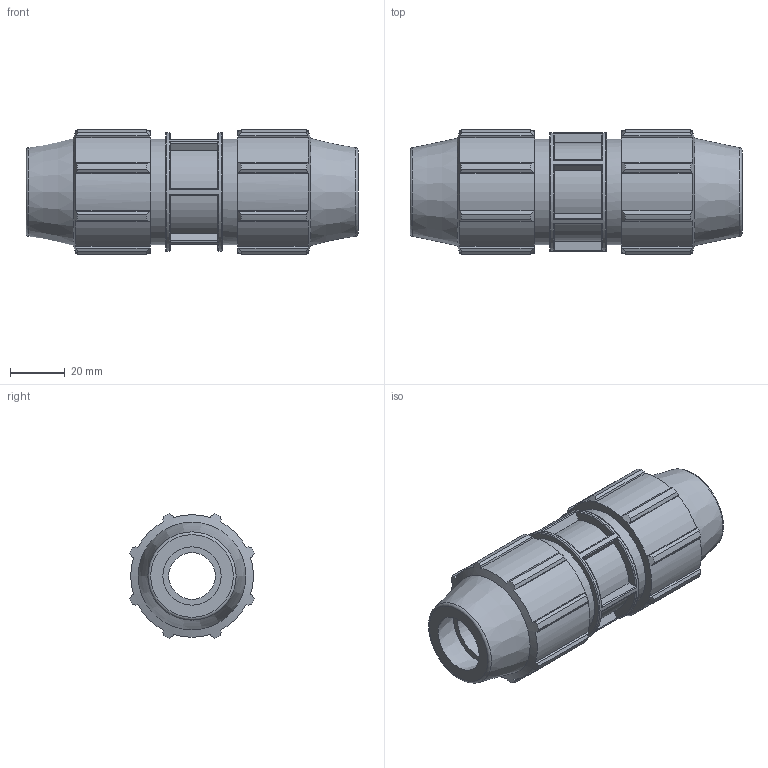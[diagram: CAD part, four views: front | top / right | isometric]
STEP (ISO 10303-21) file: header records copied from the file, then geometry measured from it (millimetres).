
FILE_DESCRIPTION(/* description */ ('PLASSON COUPLER 1/2'''' - 20mm'),/* implementation_level */ '2;1');
FILE_NAME(/* name */ 'C:\Dropbox\KIMPROJECTS-Inventor 2019\99-16-3568-Processing Inch\ASTM Compression 2021\0701M\0701M005.ipt.stp',/* time_stamp */ '2021-08-26T12:29:14+03:00',/* author */ ('KIM'),/* organization */ (''),/* preprocessor_version */ 'ST-DEVELOPER v17.2',/* originating_system */ 'Autodesk Inventor 2019',/* authorisation */ '');
FILE_SCHEMA (('AUTOMOTIVE_DESIGN { 1 0 10303 214 3 1 1 }'));
Length unit declared in the file: inch
Products named in the file (1): 0701M005
Bounding box: 120.9 x 45.17 x 45.17 mm (x, y, z)
Volume: 116804 mm3; surface area: 29145.9 mm2
Topology: 1 solids, 1 shells, 193 faces, 552 edges, 375 vertices
Faces by surface type: plane 98, cylinder 56, cone 23, torus 16
Full cylindrical faces by diameter (mm): 16.96 x1, 20 x1, 21.2 x1, 38.405 x2, 43.205 x1
Entity records: 6840 total; most frequent: CARTESIAN_POINT 1633, ORIENTED_EDGE 1104, DIRECTION 1003, EDGE_CURVE 552, VERTEX_POINT 375, AXIS2_PLACEMENT_3D 369, LINE 265, VECTOR 265
